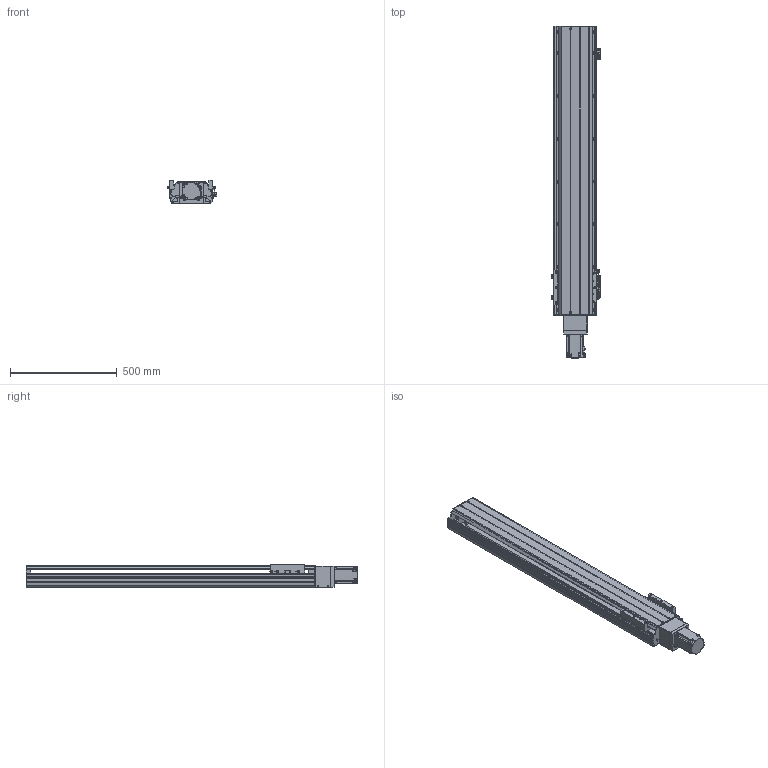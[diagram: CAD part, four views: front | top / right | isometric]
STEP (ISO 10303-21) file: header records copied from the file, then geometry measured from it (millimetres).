
FILE_DESCRIPTION(/* description */ ('MANUFACTURE'),/* implementation_level */ '2;1');
FILE_NAME(/* name */ '\\192.168.0.160\disk1\HAN SHIN Master\B-설계부문\C-표준\B-2024년\BC02-표준도면\+로봇 개선표준도면\표준 승인도 작업 폴더\3D\HG200\HG200직렬\HG200-S70-N-1100-R10.stp',/* time_stamp */ '2024-02-23T14:18:23+09:00',/* author */ ('User'),/* organization */ (''),/* preprocessor_version */ 'ST-DEVELOPER v18.1',/* originating_system */ 'Autodesk Inventor 2022',/* authorisation */ 'LIP');
FILE_SCHEMA (('AUTOMOTIVE_DESIGN { 1 0 10303 214 3 1 1 }'));
Products named in the file (19): HR200-S70-W0500-R10; HR200 S BASE-개선; HR180 FRONT BLOCK; HR180 FRONT BLOCK_1; HR200 FRONT COVER; HR120 STOPPER; HR200 SENSOR DOG; HR200 S UPCOVER; hsr_ftht_A-M6F_grease_nipple_joint; NIPPLE CAP(신규); SDWC-54C; HR200 FRONT COVER_1; HR200 TABLE (W,N); COUPLING COVER 400W-R1; hg-kr73_; HG200 S MOTOR PLATE-M; HG200 S MOTOR PLATE-B; SENSOR BRK(EE-SX674A); EE_SX674A
Assembly tree (31 placements, depth 2):
  HR200-S70-W0500-R10
    HR200 S BASE-개선
    HR180 FRONT BLOCK
    HR180 FRONT BLOCK_1
    HR200 FRONT COVER
    HR120 STOPPER  x2
    HR200 SENSOR DOG
    SENSOR BRK(EE-SX674A)  x3
    EE_SX674A  x3
    HR200 S UPCOVER
    NIPPLE CAP(신규)  x5
    hsr_ftht_A-M6F_grease_nipple_joint  x5
    SDWC-54C
    HR200 FRONT COVER_1
    HR200 TABLE (W,N)
    COUPLING COVER 400W-R1
    hg-kr73_
    HG200 S MOTOR PLATE-M
    HG200 S MOTOR PLATE-B
Bounding box: 231.46 x 1552 x 109 mm (x, y, z)
Volume: 8914415.7 mm3; surface area: 2331455.3 mm2
Topology: 31 solids, 49 shells, 2602 faces, 7032 edges, 4579 vertices
Faces by surface type: plane 1185, cylinder 936, cone 295, torus 122, sphere 40, bspline 24
Full cylindrical faces by diameter (mm): 2.459 x26, 3 x12, 3.242 x18, 3.3 x8, 3.5 x6, 4 x26, 4.134 x8, 4.2 x6, 4.5 x18, 4.917 x54, 5 x30, 5.34 x8, 5.35 x8, 5.4 x16, 5.5 x4, 5.6 x5, 5.9 x4, 6 x9, 6.5 x10, 6.6 x32, 6.647 x26, 7 x12, 7.6 x4, 8 x4, 8.5 x4, 9 x48, 9.85 x8, 10 x1, 11 x32, 14 x16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
Entity records: 69470 total; most frequent: CARTESIAN_POINT 14652, DIRECTION 11495, ORIENTED_EDGE 10864, EDGE_CURVE 5432, AXIS2_PLACEMENT_3D 4288, VERTEX_POINT 3607, LINE 2919, VECTOR 2919
